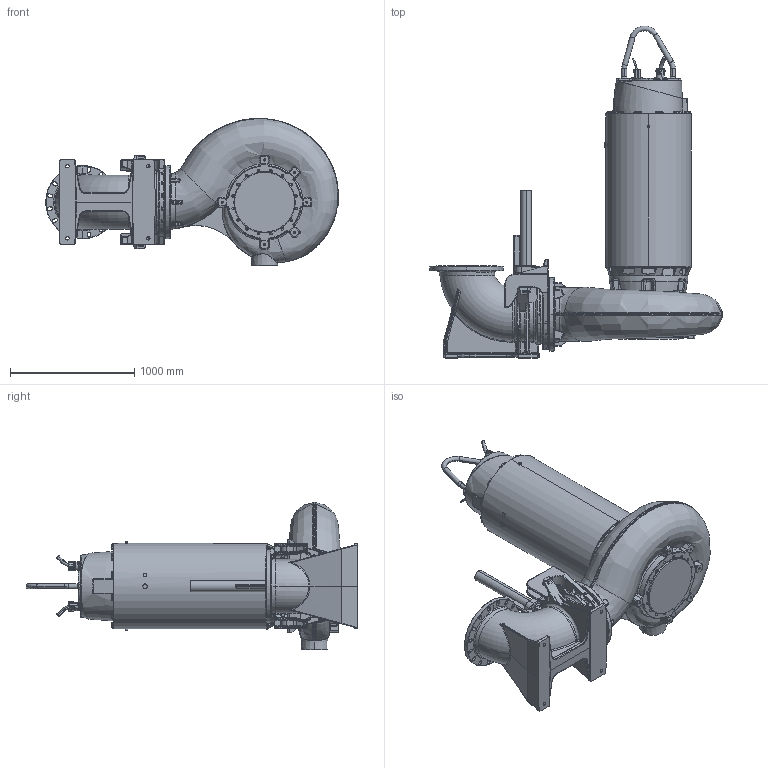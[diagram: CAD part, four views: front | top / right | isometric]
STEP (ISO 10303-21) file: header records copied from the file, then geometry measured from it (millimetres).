
FILE_DESCRIPTION (( 'STEP AP214' ), '1' );
FILE_NAME ('PE6_XFP400M-CH2_WET 3inch_C_NG2.STEP', '2017-03-23T08:05:36', ( '' ), ( '' ), 'SwSTEP 2.0', 'SolidWorks 2017', '' );
FILE_SCHEMA (( 'AUTOMOTIVE_DESIGN' ));
Length unit declared in the file: millimetre
Products named in the file (1): PE6_XFP400M-CH2_WET 3inch_C_NG2
Bounding box: 2353 x 2668.9 x 1184.25 mm (x, y, z)
Volume: 1133575804.6 mm3; surface area: 13640162.9 mm2
Topology: 4 solids, 24 shells, 4770 faces, 11691 edges, 6739 vertices
Faces by surface type: cylinder 1363, bspline 1151, plane 1081, torus 508, cone 429, sphere 238
Entity records: 279601 total; most frequent: CARTESIAN_POINT 125302, ORIENTED_EDGE 22708, DIRECTION 19753, EDGE_CURVE 11354, AXIS2_PLACEMENT_3D 8010, VERTEX_POINT 6733, EDGE_LOOP 5033, UNCERTAINTY_MEASURE_WITH_UNIT 4776
